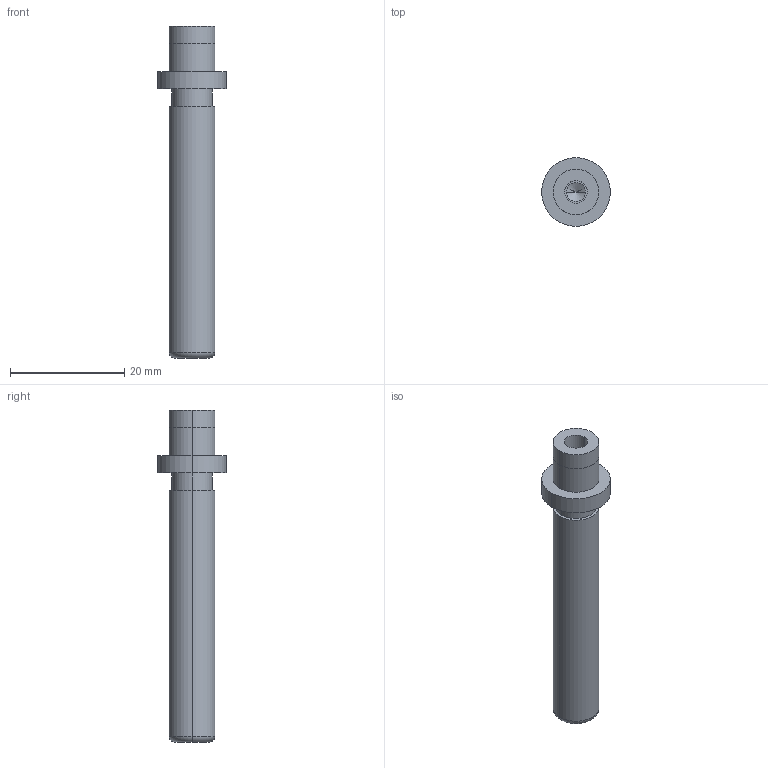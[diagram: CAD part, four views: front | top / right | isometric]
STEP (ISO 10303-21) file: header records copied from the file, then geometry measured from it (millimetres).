
FILE_DESCRIPTION(/* description */ (''),/* implementation_level */ '2;1');
FILE_NAME(/* name */ '3d_sgpw8-50_05248_r00.stp',/* time_stamp */ '2011-01-10T14:11:02+09:00',/* author */ ('MISUMI'),/* organization */ (''),/* preprocessor_version */ 'ST-DEVELOPER v11',/* originating_system */ 'UGS - NX 5.0',/* authorisation */ '');
FILE_SCHEMA (('CONFIG_CONTROL_DESIGN'));
Length unit declared in the file: millimetre
Products named in the file (1): 3d_sgpw8-50_05248_r00
Bounding box: 12 x 12 x 58 mm (x, y, z)
Volume: 2772.5 mm3; surface area: 2019.9 mm2
Topology: 1 solids, 1 shells, 31 faces, 64 edges, 38 vertices
Faces by surface type: cylinder 18, plane 7, cone 4, torus 2
Entity records: 890 total; most frequent: DIRECTION 162, CARTESIAN_POINT 130, ORIENTED_EDGE 120, AXIS2_PLACEMENT_3D 70, EDGE_CURVE 60, EDGE_LOOP 38, CIRCLE 38, VERTEX_POINT 38
